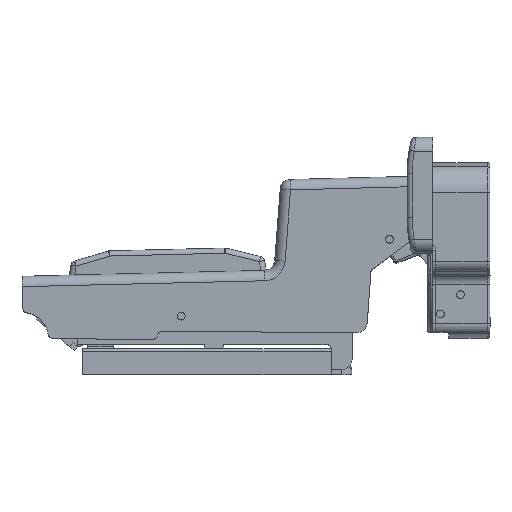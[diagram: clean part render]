
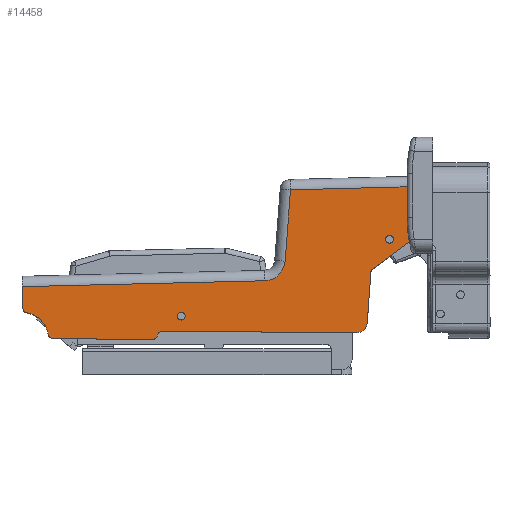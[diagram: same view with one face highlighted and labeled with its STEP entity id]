
A CAD part, top view. The second image highlights one B-rep face of the part: STEP entity #14458.
In plain terms, the highlighted planar face has unit normal (0, 0, 1).
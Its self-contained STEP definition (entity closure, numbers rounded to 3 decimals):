
#1104=FACE_BOUND('',#3060,.T.);
#1105=FACE_BOUND('',#3061,.T.);
#1106=FACE_BOUND('',#3062,.T.);
#1536=CIRCLE('',#15599,1.);
#1538=CIRCLE('',#15602,5.);
#1540=CIRCLE('',#15605,1.);
#1541=CIRCLE('',#15606,1.);
#1542=CIRCLE('',#15607,2.);
#1543=CIRCLE('',#15608,0.5);
#1544=CIRCLE('',#15609,1.458);
#1545=CIRCLE('',#15610,3.093);
#1546=CIRCLE('',#15611,4.072);
#1547=CIRCLE('',#15612,1.);
#1548=CIRCLE('',#15613,0.75);
#1549=CIRCLE('',#15614,0.75);
#1550=CIRCLE('',#15615,0.75);
#2231=FACE_OUTER_BOUND('',#3059,.T.);
#3059=EDGE_LOOP('',(#10370,#10371,#10372,#10373,#10374,#10375,#10376,#10377,
#10378,#10379,#10380,#10381,#10382,#10383,#10384,#10385,#10386,#10387,#10388,
#10389,#10390));
#3060=EDGE_LOOP('',(#10391));
#3061=EDGE_LOOP('',(#10392));
#3062=EDGE_LOOP('',(#10393));
#4042=LINE('',#21783,#5315);
#4043=LINE('',#21787,#5316);
#4044=LINE('',#21791,#5317);
#4045=LINE('',#21795,#5318);
#4046=LINE('',#21799,#5319);
#4047=LINE('',#21801,#5320);
#4048=LINE('',#21805,#5321);
#4049=LINE('',#21809,#5322);
#4050=LINE('',#21811,#5323);
#4051=LINE('',#21815,#5324);
#4052=LINE('',#21817,#5325);
#5315=VECTOR('',#17489,10.);
#5316=VECTOR('',#17492,10.);
#5317=VECTOR('',#17495,10.);
#5318=VECTOR('',#17498,10.);
#5319=VECTOR('',#17501,10.);
#5320=VECTOR('',#17502,10.);
#5321=VECTOR('',#17505,10.);
#5322=VECTOR('',#17508,10.);
#5323=VECTOR('',#17509,10.);
#5324=VECTOR('',#17512,10.);
#5325=VECTOR('',#17513,10.);
#6570=VERTEX_POINT('',#21767);
#6571=VERTEX_POINT('',#21768);
#6574=VERTEX_POINT('',#21776);
#6576=VERTEX_POINT('',#21782);
#6577=VERTEX_POINT('',#21784);
#6578=VERTEX_POINT('',#21786);
#6579=VERTEX_POINT('',#21788);
#6580=VERTEX_POINT('',#21790);
#6581=VERTEX_POINT('',#21792);
#6582=VERTEX_POINT('',#21794);
#6583=VERTEX_POINT('',#21796);
#6584=VERTEX_POINT('',#21798);
#6585=VERTEX_POINT('',#21800);
#6586=VERTEX_POINT('',#21802);
#6587=VERTEX_POINT('',#21804);
#6588=VERTEX_POINT('',#21806);
#6589=VERTEX_POINT('',#21808);
#6590=VERTEX_POINT('',#21810);
#6591=VERTEX_POINT('',#21812);
#6592=VERTEX_POINT('',#21814);
#6593=VERTEX_POINT('',#21816);
#6594=VERTEX_POINT('',#21819);
#6595=VERTEX_POINT('',#21821);
#6596=VERTEX_POINT('',#21823);
#7988=EDGE_CURVE('',#6570,#6571,#1536,.T.);
#7992=EDGE_CURVE('',#6574,#6571,#1538,.T.);
#7995=EDGE_CURVE('',#6570,#6576,#4042,.T.);
#7996=EDGE_CURVE('',#6576,#6577,#1540,.T.);
#7997=EDGE_CURVE('',#6577,#6578,#4043,.T.);
#7998=EDGE_CURVE('',#6578,#6579,#1541,.T.);
#7999=EDGE_CURVE('',#6579,#6580,#4044,.T.);
#8000=EDGE_CURVE('',#6580,#6581,#1542,.T.);
#8001=EDGE_CURVE('',#6581,#6582,#4045,.T.);
#8002=EDGE_CURVE('',#6582,#6583,#1543,.T.);
#8003=EDGE_CURVE('',#6583,#6584,#4046,.T.);
#8004=EDGE_CURVE('',#6584,#6585,#4047,.T.);
#8005=EDGE_CURVE('',#6585,#6586,#1544,.T.);
#8006=EDGE_CURVE('',#6586,#6587,#4048,.T.);
#8007=EDGE_CURVE('',#6587,#6588,#1545,.T.);
#8008=EDGE_CURVE('',#6589,#6588,#4049,.T.);
#8009=EDGE_CURVE('',#6590,#6589,#4050,.T.);
#8010=EDGE_CURVE('',#6591,#6590,#1546,.T.);
#8011=EDGE_CURVE('',#6592,#6591,#4051,.T.);
#8012=EDGE_CURVE('',#6592,#6593,#4052,.T.);
#8013=EDGE_CURVE('',#6574,#6593,#1547,.T.);
#8014=EDGE_CURVE('',#6594,#6594,#1548,.T.);
#8015=EDGE_CURVE('',#6595,#6595,#1549,.T.);
#8016=EDGE_CURVE('',#6596,#6596,#1550,.T.);
#10370=ORIENTED_EDGE('',*,*,#7988,.F.);
#10371=ORIENTED_EDGE('',*,*,#7995,.T.);
#10372=ORIENTED_EDGE('',*,*,#7996,.T.);
#10373=ORIENTED_EDGE('',*,*,#7997,.T.);
#10374=ORIENTED_EDGE('',*,*,#7998,.T.);
#10375=ORIENTED_EDGE('',*,*,#7999,.T.);
#10376=ORIENTED_EDGE('',*,*,#8000,.T.);
#10377=ORIENTED_EDGE('',*,*,#8001,.T.);
#10378=ORIENTED_EDGE('',*,*,#8002,.T.);
#10379=ORIENTED_EDGE('',*,*,#8003,.T.);
#10380=ORIENTED_EDGE('',*,*,#8004,.T.);
#10381=ORIENTED_EDGE('',*,*,#8005,.T.);
#10382=ORIENTED_EDGE('',*,*,#8006,.T.);
#10383=ORIENTED_EDGE('',*,*,#8007,.T.);
#10384=ORIENTED_EDGE('',*,*,#8008,.F.);
#10385=ORIENTED_EDGE('',*,*,#8009,.F.);
#10386=ORIENTED_EDGE('',*,*,#8010,.F.);
#10387=ORIENTED_EDGE('',*,*,#8011,.F.);
#10388=ORIENTED_EDGE('',*,*,#8012,.T.);
#10389=ORIENTED_EDGE('',*,*,#8013,.F.);
#10390=ORIENTED_EDGE('',*,*,#7992,.T.);
#10391=ORIENTED_EDGE('',*,*,#8014,.T.);
#10392=ORIENTED_EDGE('',*,*,#8015,.T.);
#10393=ORIENTED_EDGE('',*,*,#8016,.T.);
#14042=PLANE('',#15604);
#14458=ADVANCED_FACE('',(#2231,#1104,#1105,#1106),#14042,.T.);
#15599=AXIS2_PLACEMENT_3D('',#21769,#17474,#17475);
#15602=AXIS2_PLACEMENT_3D('',#21777,#17482,#17483);
#15604=AXIS2_PLACEMENT_3D('',#21781,#17487,#17488);
#15605=AXIS2_PLACEMENT_3D('',#21785,#17490,#17491);
#15606=AXIS2_PLACEMENT_3D('',#21789,#17493,#17494);
#15607=AXIS2_PLACEMENT_3D('',#21793,#17496,#17497);
#15608=AXIS2_PLACEMENT_3D('',#21797,#17499,#17500);
#15609=AXIS2_PLACEMENT_3D('',#21803,#17503,#17504);
#15610=AXIS2_PLACEMENT_3D('',#21807,#17506,#17507);
#15611=AXIS2_PLACEMENT_3D('',#21813,#17510,#17511);
#15612=AXIS2_PLACEMENT_3D('',#21818,#17514,#17515);
#15613=AXIS2_PLACEMENT_3D('',#21820,#17516,#17517);
#15614=AXIS2_PLACEMENT_3D('',#21822,#17518,#17519);
#15615=AXIS2_PLACEMENT_3D('',#21824,#17520,#17521);
#17474=DIRECTION('center_axis',(0.,0.,-1.));
#17475=DIRECTION('ref_axis',(-0.645,-0.764,0.));
#17482=DIRECTION('center_axis',(0.,0.,-1.));
#17483=DIRECTION('ref_axis',(-1.,0.,0.));
#17487=DIRECTION('center_axis',(0.,0.,1.));
#17488=DIRECTION('ref_axis',(1.,0.,0.));
#17489=DIRECTION('',(1.,0.,0.));
#17490=DIRECTION('center_axis',(0.,0.,1.));
#17491=DIRECTION('ref_axis',(0.,-1.,0.));
#17492=DIRECTION('',(0.399,0.917,0.));
#17493=DIRECTION('center_axis',(0.,0.,-1.));
#17494=DIRECTION('ref_axis',(0.,-1.,0.));
#17495=DIRECTION('',(1.,0.,0.));
#17496=DIRECTION('center_axis',(0.,0.,1.));
#17497=DIRECTION('ref_axis',(0.,-1.,0.));
#17498=DIRECTION('',(0.066,0.998,0.));
#17499=DIRECTION('center_axis',(0.,0.,-1.));
#17500=DIRECTION('ref_axis',(0.599,-0.801,0.));
#17501=DIRECTION('',(0.801,0.599,0.));
#17502=DIRECTION('',(1.,0.,0.));
#17503=DIRECTION('center_axis',(0.,0.,1.));
#17504=DIRECTION('ref_axis',(0.232,-0.973,0.));
#17505=DIRECTION('',(0.09,0.996,0.));
#17506=DIRECTION('center_axis',(0.,0.,1.));
#17507=DIRECTION('ref_axis',(0.996,-0.09,0.));
#17508=DIRECTION('',(0.999,0.033,0.));
#17509=DIRECTION('',(0.069,0.998,0.));
#17510=DIRECTION('center_axis',(0.,0.,1.));
#17511=DIRECTION('ref_axis',(0.694,-0.72,0.));
#17512=DIRECTION('',(1.,0.031,0.));
#17513=DIRECTION('',(0.03,-1.,0.));
#17514=DIRECTION('center_axis',(0.,0.,-1.));
#17515=DIRECTION('ref_axis',(-0.753,-0.658,0.));
#17516=DIRECTION('center_axis',(0.,0.,-1.));
#17517=DIRECTION('ref_axis',(-1.,0.,0.));
#17518=DIRECTION('center_axis',(0.,0.,-1.));
#17519=DIRECTION('ref_axis',(-1.,0.,0.));
#17520=DIRECTION('center_axis',(0.,0.,-1.));
#17521=DIRECTION('ref_axis',(-1.,0.,0.));
#21767=CARTESIAN_POINT('',(-10.605,0.298,8.5));
#21768=CARTESIAN_POINT('',(-11.591,1.131,8.5));
#21769=CARTESIAN_POINT('Origin',(-10.605,1.298,8.5));
#21776=CARTESIAN_POINT('',(-15.71,5.231,8.5));
#21777=CARTESIAN_POINT('Origin',(-16.521,0.298,8.5));
#21781=CARTESIAN_POINT('Origin',(24.614,16.208,8.5));
#21782=CARTESIAN_POINT('',(8.488,0.298,8.5));
#21783=CARTESIAN_POINT('',(-11.521,0.298,8.5));
#21784=CARTESIAN_POINT('',(9.405,0.898,8.5));
#21785=CARTESIAN_POINT('Origin',(8.488,1.298,8.5));
#21786=CARTESIAN_POINT('',(9.562,1.259,8.5));
#21787=CARTESIAN_POINT('',(9.405,0.898,8.5));
#21788=CARTESIAN_POINT('',(10.479,1.859,8.5));
#21789=CARTESIAN_POINT('Origin',(10.479,0.859,8.5));
#21790=CARTESIAN_POINT('',(47.905,1.859,8.5));
#21791=CARTESIAN_POINT('',(10.479,1.859,8.5));
#21792=CARTESIAN_POINT('',(49.901,3.728,8.5));
#21793=CARTESIAN_POINT('Origin',(47.905,3.859,8.5));
#21794=CARTESIAN_POINT('',(50.56,13.693,8.5));
#21795=CARTESIAN_POINT('',(49.901,3.728,8.5));
#21796=CARTESIAN_POINT('',(50.759,14.061,8.5));
#21797=CARTESIAN_POINT('Origin',(51.058,13.66,8.5));
#21798=CARTESIAN_POINT('',(59.579,20.652,8.5));
#21799=CARTESIAN_POINT('',(50.759,14.061,8.5));
#21800=CARTESIAN_POINT('',(64.242,20.652,8.5));
#21801=CARTESIAN_POINT('',(59.579,20.652,8.5));
#21802=CARTESIAN_POINT('',(65.356,21.939,8.5));
#21803=CARTESIAN_POINT('Origin',(63.903,22.07,8.5));
#21804=CARTESIAN_POINT('',(65.945,28.487,8.5));
#21805=CARTESIAN_POINT('',(65.356,21.939,8.5));
#21806=CARTESIAN_POINT('',(65.541,30.313,8.5));
#21807=CARTESIAN_POINT('Origin',(62.864,28.764,8.5));
#21808=CARTESIAN_POINT('',(34.94,29.308,8.5));
#21809=CARTESIAN_POINT('',(41.912,29.537,8.5));
#21810=CARTESIAN_POINT('',(33.991,15.53,8.5));
#21811=CARTESIAN_POINT('',(34.467,22.435,8.5));
#21812=CARTESIAN_POINT('',(30.054,11.74,8.5));
#21813=CARTESIAN_POINT('Origin',(29.929,15.81,8.5));
#21814=CARTESIAN_POINT('',(-16.669,10.298,8.5));
#21815=CARTESIAN_POINT('',(27.406,11.658,8.5));
#21816=CARTESIAN_POINT('',(-16.547,6.188,8.5));
#21817=CARTESIAN_POINT('',(-16.728,12.298,8.5));
#21818=CARTESIAN_POINT('Origin',(-15.548,6.218,8.5));
#21819=CARTESIAN_POINT('',(54.864,19.902,8.5));
#21820=CARTESIAN_POINT('Origin',(54.114,19.902,8.5));
#21821=CARTESIAN_POINT('',(14.779,4.809,8.5));
#21822=CARTESIAN_POINT('Origin',(14.029,4.809,8.5));
#21823=CARTESIAN_POINT('',(63.761,27.605,8.5));
#21824=CARTESIAN_POINT('Origin',(63.011,27.605,8.5));
